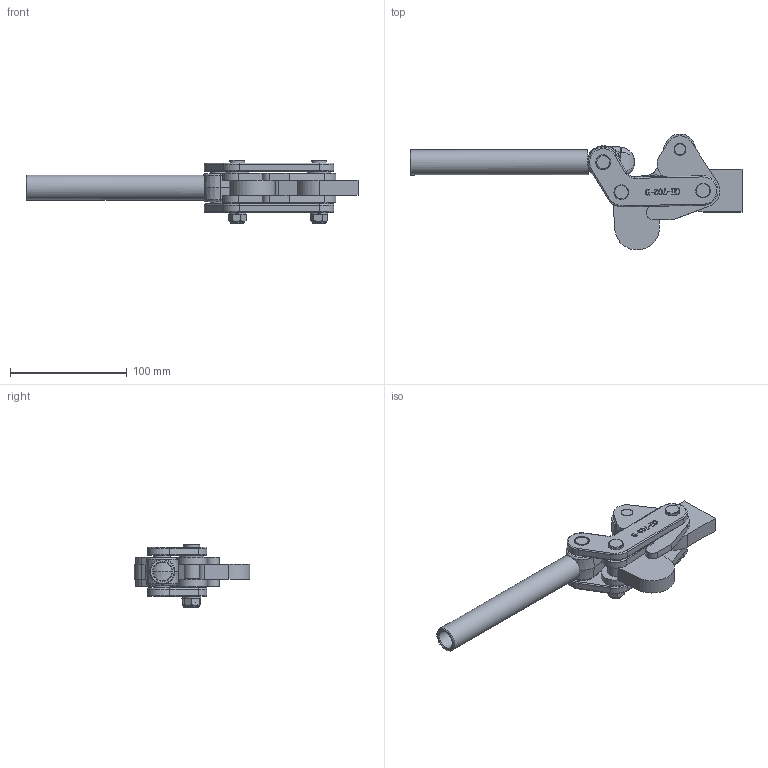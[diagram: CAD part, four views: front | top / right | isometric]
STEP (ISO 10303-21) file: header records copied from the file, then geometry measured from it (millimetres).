
FILE_DESCRIPTION(/* description */ ('STEP AP203'),/* implementation_level */ '2;1');
FILE_NAME(/* name */ 'D:\Vault_2016\Projekty\NASZ KATALOG\CLAMPTEK\STRONA\Heavy duty weldables\CH-702-D\CH-702-D_ZAMKNIETY.stp',/* time_stamp */ '2019-01-14T15:48:11+01:00',/* author */ ('CADENGINEERING4'),/* organization */ ('Î¢ÈíÖÐ¹ú'),/* preprocessor_version */ 'ST-DEVELOPER v17.2',/* originating_system */ 'Autodesk Inventor 2019',/* authorisation */ '');
FILE_SCHEMA (('AUTOMOTIVE_DESIGN { 1 0 10303 214 3 1 1 }'));
Length unit declared in the file: millimetre
Products named in the file (14): CH-702-D_ZAMKNIETY; 702-D-04_Ä¬ÈÏ; 702-D-02_Ä¬ÈÏ; 702-D-05_Ä¬ÈÏ; 702-D-03_Ä¬ÈÏ; 702-D-06_Ä¬ÈÏ; 702-D-12_Ä¬ÈÏ; 702-D-08_Ä¬ÈÏ; 702-D-09_Ä¬ÈÏ; 702-D-07_Ä¬ÈÏ; 702-D-10_Ä¬ÈÏ; 702-D-01_Ä¬ÈÏ; 702-D-11_Ä¬ÈÏ; 3-8-16 LOCK NUT_Ä¬ÈÏ
Assembly tree (24 placements, depth 2):
  CH-702-D_ZAMKNIETY
    702-D-04_Ä¬ÈÏ
    702-D-02_Ä¬ÈÏ
    702-D-06_Ä¬ÈÏ  x2
    702-D-08_Ä¬ÈÏ  x3
    702-D-12_Ä¬ÈÏ  x2
    702-D-05_Ä¬ÈÏ
    702-D-03_Ä¬ÈÏ  x2
    702-D-11_Ä¬ÈÏ  x4
    702-D-09_Ä¬ÈÏ
    702-D-01_Ä¬ÈÏ  x2
    702-D-07_Ä¬ÈÏ  x2
    3-8-16 LOCK NUT_Ä¬ÈÏ  x2
    702-D-10_Ä¬ÈÏ
Bounding box: 284.27 x 99.26 x 54.6 mm (x, y, z)
Volume: 204852.4 mm3; surface area: 92790.8 mm2
Topology: 25 solids, 25 shells, 2539 faces, 7379 edges, 4934 vertices
Faces by surface type: plane 1732, cylinder 508, bspline 217, cone 48, torus 30, sphere 4
Full cylindrical faces by diameter (mm): 2.749 x1, 3.071 x1, 7.5 x2, 8.5 x8, 9.5 x29, 9.6 x3, 9.8 x6, 10 x4, 12 x2, 12.6 x2, 12.7 x4, 12.8 x6, 12.9 x2, 14 x7, 16 x1, 20 x4, 21.5 x1
Entity records: 63454 total; most frequent: CARTESIAN_POINT 23657, ORIENTED_EDGE 8708, DIRECTION 7517, EDGE_CURVE 4354, LINE 2905, VECTOR 2905, VERTEX_POINT 2900, AXIS2_PLACEMENT_3D 2306
